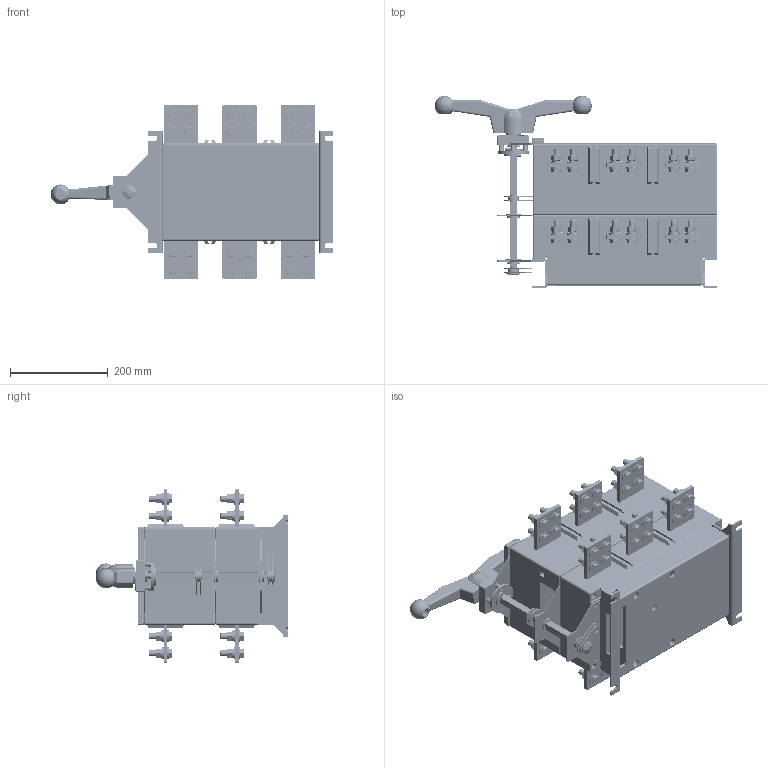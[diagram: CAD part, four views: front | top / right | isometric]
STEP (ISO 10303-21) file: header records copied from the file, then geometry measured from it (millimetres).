
FILE_DESCRIPTION((''),'2;1');
FILE_NAME('ASM0003_ASM','2024-01-24T',('zhuanghy'),(''),'CREO PARAMETRIC BY PTC INC, 2018070','CREO PARAMETRIC BY PTC INC, 2018070','');
FILE_SCHEMA(('AUTOMOTIVE_DESIGN { 1 0 10303 214 1 1 1 1 }'));
Products named in the file (1145): NH40_1250____-4554_1_1; HEX_NUTS__STYLE_1-GRADES_AB-227; PLAIN_WASHERS--PRODUCT_GRAD-261; SPRING_LOCK_WASHERS--NORMAL-293; PLAIN_WASHERS--PRODUCT_GRAD-324; HEX_HEAD_BOLTS-FULL_THREAD_-356; PLAIN_WASHERS--PRODUCT_GRAD-387; PLAIN_WASHERS--PRODUCT_GRAD-419; SPRING_LOCK_WASHERS--NORMAL-450; HEX_NUTS__STYLE_1-GRADES_AB-482; HEX_NUTS__STYLE_1-GRADES_AB-513; PLAIN_WASHERS--PRODUCT_GRAD-545; PLAIN_WASHERS--PRODUCT_GRAD-576; PLAIN_WASHERS--PRODUCT_GRAD-608; HEX_HEAD_BOLTS-FULL_THREAD_-639; HEX_HEAD_BOLTS-FULL_THREAD_-671; SPRING_LOCK_WASHERS--NORMAL-702; HEX_HEAD_BOLTS-FULL_THREAD_-734; PLAIN_WASHERS--PRODUCT_GRAD-765; NH40_1250______1_AF0_3; SPRING_LOCK_WASHERS--NORMAL-828; HEX_NUTS__STYLE_1-GRADES_AB-860; NH40_1250_________1_AF0_ASM_1_ASM; HEX_NUTS__STYLE_1-GRADES_AB-920; PLAIN_WASHERS--PRODUCT_GRAD-954; SPRING_LOCK_WASHERS--NORMAL-986; PLAIN_WASHERS--PRODUCT_GRA-1017; HEX_HEAD_BOLTS-FULL_THREAD-1049; PLAIN_WASHERS--PRODUCT_GRA-1080; PLAIN_WASHERS--PRODUCT_GRA-1112; SPRING_LOCK_WASHERS--NORMA-1143; HEX_NUTS__STYLE_1-GRADES_A-1175; HEX_NUTS__STYLE_1-GRADES_A-1206; PLAIN_WASHERS--PRODUCT_GRA-1238; PLAIN_WASHERS--PRODUCT_GRA-1269; PLAIN_WASHERS--PRODUCT_GRA-1301; HEX_HEAD_BOLTS-FULL_THREAD-1332; HEX_HEAD_BOLTS-FULL_THREAD-1364; SPRING_LOCK_WASHERS--NORMA-1395; HEX_HEAD_BOLTS-FULL_THREAD-1427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
Assembly tree (1152 placements, depth 8):
  ASM0003_ASM
    NH40-1250-3CS_3P_202209_ASM
      NH40-1250-4CS_4P_202104_ASM_1_ASM
        NH40_1250____-21146_1_AF0_ASM_1_ASM
          NH40_1250____-4554_1_1  x2
          NH40_1250_________1_AF0_ASM_1_ASM
            HEX_NUTS__STYLE_1-GRADES_AB-227
            PLAIN_WASHERS--PRODUCT_GRAD-261
            SPRING_LOCK_WASHERS--NORMAL-293
            PLAIN_WASHERS--PRODUCT_GRAD-324
            HEX_HEAD_BOLTS-FULL_THREAD_-356
            PLAIN_WASHERS--PRODUCT_GRAD-387
            PLAIN_WASHERS--PRODUCT_GRAD-419
            SPRING_LOCK_WASHERS--NORMAL-450
            HEX_NUTS__STYLE_1-GRADES_AB-482
            HEX_NUTS__STYLE_1-GRADES_AB-513
            PLAIN_WASHERS--PRODUCT_GRAD-545
            PLAIN_WASHERS--PRODUCT_GRAD-576
            PLAIN_WASHERS--PRODUCT_GRAD-608
            HEX_HEAD_BOLTS-FULL_THREAD_-639
            HEX_HEAD_BOLTS-FULL_THREAD_-671
            SPRING_LOCK_WASHERS--NORMAL-702
            HEX_HEAD_BOLTS-FULL_THREAD_-734
            PLAIN_WASHERS--PRODUCT_GRAD-765
            NH40_1250______1_AF0_3
            SPRING_LOCK_WASHERS--NORMAL-828
            HEX_NUTS__STYLE_1-GRADES_AB-860
          NH40_1250_________1_AF1_ASM_1_ASM
            HEX_NUTS__STYLE_1-GRADES_AB-920
            PLAIN_WASHERS--PRODUCT_GRAD-954
            SPRING_LOCK_WASHERS--NORMAL-986
            PLAIN_WASHERS--PRODUCT_GRA-1017
            HEX_HEAD_BOLTS-FULL_THREAD-1049
            PLAIN_WASHERS--PRODUCT_GRA-1080
            PLAIN_WASHERS--PRODUCT_GRA-1112
            SPRING_LOCK_WASHERS--NORMA-1143
            HEX_NUTS__STYLE_1-GRADES_A-1175
            HEX_NUTS__STYLE_1-GRADES_A-1206
            PLAIN_WASHERS--PRODUCT_GRA-1238
            PLAIN_WASHERS--PRODUCT_GRA-1269
            PLAIN_WASHERS--PRODUCT_GRA-1301
            HEX_HEAD_BOLTS-FULL_THREAD-1332
            HEX_HEAD_BOLTS-FULL_THREAD-1364
            SPRING_LOCK_WASHERS--NORMA-1395
            HEX_HEAD_BOLTS-FULL_THREAD-1427
            PLAIN_WASHERS--PRODUCT_GRA-1458
            NH40_1250______1_AF1_3
            SPRING_LOCK_WASHERS--NORMA-1521
            HEX_NUTS__STYLE_1-GRADES_A-1553
          _____630_2_1_1
          NH40_1250_4__1_AF0_1
          NH40_1250___-3630_1_1  x2
          NH40_1250___-21299_1_1
          NH40_1250_________1_AF2_ASM_1_ASM
            HEX_NUTS__STYLE_1-GRADES_A-6114
            PLAIN_WASHERS--PRODUCT_GRA-6148
            SPRING_LOCK_WASHERS--NORMA-6180
            PLAIN_WASHERS--PRODUCT_GRA-6211
            HEX_HEAD_BOLTS-FULL_THREAD-6243
            PLAIN_WASHERS--PRODUCT_GRA-6274
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Bounding box: 578.83 x 393.9 x 356.1 mm (x, y, z)
Volume: 15665395.8 mm3; surface area: 2321914.9 mm2
Topology: 293 solids, 293 shells, 5282 faces, 12491 edges, 8030 vertices
Faces by surface type: plane 2619, cylinder 1645, cone 882, extrusion 96, sphere 20, torus 14, bspline 6
Entity records: 226342 total; most frequent: CARTESIAN_POINT 44122, DIRECTION 32004, ORIENTED_EDGE 24456, AXIS2_PLACEMENT_3D 12760, EDGE_CURVE 12228, VERTEX_POINT 7866, PRESENTATION_LAYER_ASSIGNMENT 7625, VECTOR 6484
